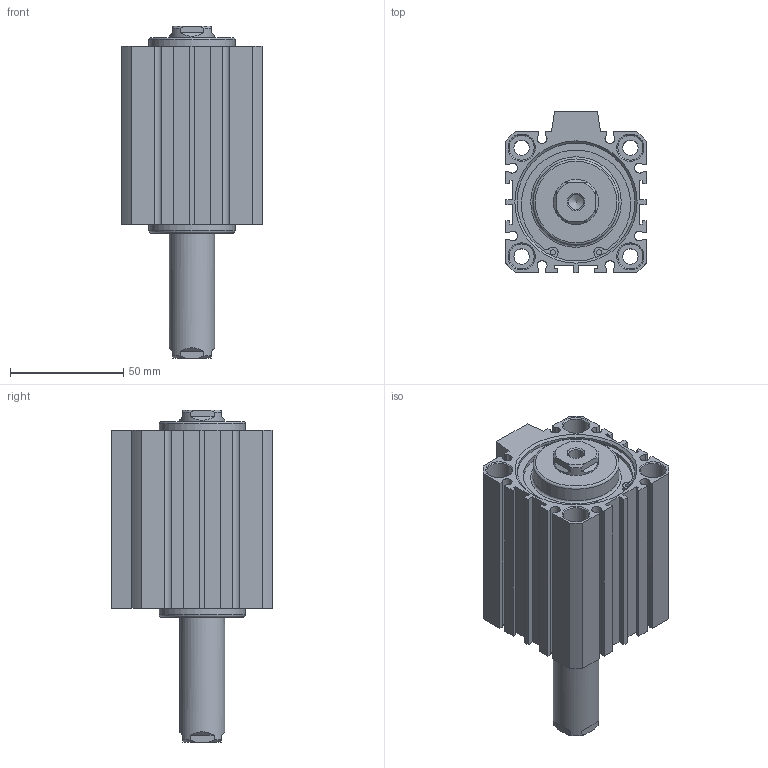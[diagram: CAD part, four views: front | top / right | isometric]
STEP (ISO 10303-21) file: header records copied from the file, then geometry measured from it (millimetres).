
FILE_DESCRIPTION((''),'2;1');
FILE_NAME('I:\3D電子目錄\氣缸\JDD\JDD\JDD50\JDD50x50.stp','2007-02-08T11:10:57',('662F206'),(''),'Autodesk Inventor 10','Autodesk Inventor 10','');
FILE_SCHEMA(('AUTOMOTIVE_DESIGN { 1 0 10303 214 1 1 1 1 }'));
Length unit declared in the file: millimetre
Products named in the file (3): JDD50; R 形環 52
Assembly tree (3 placements, depth 2):
  JDD50
    JDD50
    R 形環 52  x2
Bounding box: 62 x 71 x 146.6 mm (x, y, z)
Volume: 291590.6 mm3; surface area: 58145.1 mm2
Topology: 3 solids, 3 shells, 200 faces, 502 edges, 330 vertices
Faces by surface type: plane 116, cylinder 52, cone 24, bspline 6, torus 2
Full cylindrical faces by diameter (mm): 2.3 x4, 2.7 x2, 6.8 x4, 11 x8, 20 x2, 38 x2, 52 x4, 55 x2
Entity records: 5511 total; most frequent: CARTESIAN_POINT 1094, DIRECTION 908, ORIENTED_EDGE 824, EDGE_CURVE 412, AXIS2_PLACEMENT_3D 324, VERTEX_POINT 300, EDGE_LOOP 272, VECTOR 260
